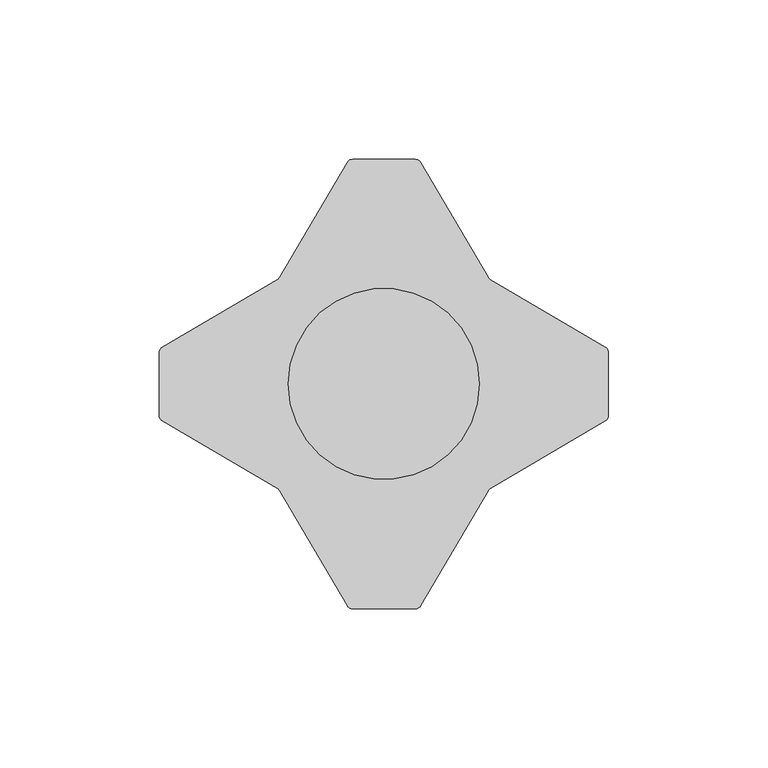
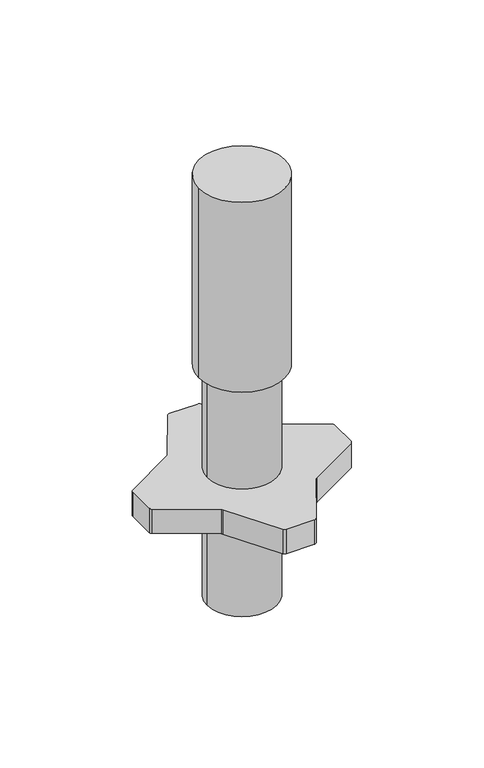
"""IFC4 building model written with IfcOpenShell, lengths in millimetres: proxy geometry, MILLS_ACRAM_EMBASE : Embase."""

import ifcopenshell
import ifcopenshell.guid

model = None  # the IFC model being written
_history = None  # IfcOwnerHistory: only IFC2X3 demands one
_inside = {}  # id of a spatial element -> (the spatial element, [elements in it])
_under = {}  # id of a project, library or spatial element -> (it, [spatial elements below it])
_declared = {}  # id of a project -> (the project, [libraries it declares])
_typed = {}  # id of a type object -> (the type object, [elements of that type])
_made_of = {}  # id of a material, layer set ... -> (it, [elements and type objects made of it])


def new_model(schema):
    """Start an empty IFC model of exactly this schema.

    Asked for "IFC4X3", IfcOpenShell would pick the latest addendum, in which some entities
    have other attributes; the version numbers below select the first issue.
    IFC2X3 requires an IfcOwnerHistory on every rooted entity: one is made here for all.
    """
    global model, _history
    if schema == "IFC4X3":
        model = ifcopenshell.file(schema_version=(4, 3, 0, 0))
    else:
        model = ifcopenshell.file(schema=schema)
    _inside.clear()
    _under.clear()
    _declared.clear()
    _typed.clear()
    _made_of.clear()
    _history = None
    if model.schema == "IFC2X3":
        org = make("IfcOrganization", Name="unknown")
        user = make(
            "IfcPersonAndOrganization",
            ThePerson=make("IfcPerson", FamilyName="unknown"),
            TheOrganization=org,
        )
        app = make(
            "IfcApplication",
            ApplicationDeveloper=org,
            Version="unknown",
            ApplicationFullName="unknown",
            ApplicationIdentifier="unknown",
        )
        _history = make(
            "IfcOwnerHistory",
            OwningUser=user,
            OwningApplication=app,
            ChangeAction="ADDED",
            CreationDate=0,
        )
    return model


def make(cls, **values):
    """One entity of the class cls with the attributes given. An attribute that is None is left unset."""
    return model.create_entity(
        cls, **{name: value for name, value in values.items() if value is not None}
    )


def rooted(cls, **values):
    """An entity with a GlobalId (a new one), such as an element, a storey or a relation."""
    return make(cls, GlobalId=ifcopenshell.guid.new(), OwnerHistory=_history, **values)


def si_unit(unit_type, name, prefix=None):
    """IfcSIUnit, for example si_unit("LENGTHUNIT", "METRE", prefix="MILLI")."""
    return make("IfcSIUnit", UnitType=unit_type, Prefix=prefix, Name=name)


def assignment(units):
    """IfcUnitAssignment: the units of a project."""
    return None if units is None else make("IfcUnitAssignment", Units=units)


def point(xyz):
    """IfcCartesianPoint."""
    return None if xyz is None else make("IfcCartesianPoint", Coordinates=xyz)


def direction(xyz):
    """IfcDirection."""
    return None if xyz is None else make("IfcDirection", DirectionRatios=xyz)


def frame(location, z_axis=None, x_axis=None):
    """IfcAxis2Placement3D, a coordinate frame: its origin and axes. An axis left out is left unset."""
    return make(
        "IfcAxis2Placement3D",
        Location=point(location),
        Axis=direction(z_axis),
        RefDirection=direction(x_axis),
    )


def frame_2d(location, x_axis=None):
    """IfcAxis2Placement2D, a coordinate frame in the plane: its origin and x axis."""
    return make(
        "IfcAxis2Placement2D", Location=point(location), RefDirection=direction(x_axis)
    )


def origin():
    """The frame at (0, 0, 0) with its axes left unset."""
    return frame((0.0, 0.0, 0.0))


def place(relative_to, where):
    """IfcLocalPlacement: puts the frame where relative to a parent placement (None: the world)."""
    return make(
        "IfcLocalPlacement", PlacementRelTo=relative_to, RelativePlacement=where
    )


def context(
    kind, dimensions, precision=None, world=None, true_north=None, identifier=None
):
    """IfcGeometricRepresentationContext, for example the 3D "Model" context."""
    return make(
        "IfcGeometricRepresentationContext",
        ContextIdentifier=identifier,
        ContextType=kind,
        CoordinateSpaceDimension=dimensions,
        Precision=precision,
        WorldCoordinateSystem=world,
        TrueNorth=true_north,
    )


def project(units=None, contexts=None):
    """IfcProject with its units and contexts."""
    return rooted(
        "IfcProject",
        Name="project",
        RepresentationContexts=contexts,
        UnitsInContext=assignment(units),
    )


def spatial(cls, under=None, at=None, **own):
    """A site, building, storey or space (cls), placed at a placement, below another one or the project."""
    s = rooted(cls, ObjectPlacement=at, **own)
    if under is not None:
        _under.setdefault(under.id(), (under, []))[1].append(s)
    return s


def polyline(points):
    """IfcPolyline through the points."""
    return make("IfcPolyline", Points=[point(p) for p in points])


def circle_curve(where, radius):
    """IfcCircle in the frame where."""
    return make("IfcCircle", Position=where, Radius=radius)


def trimmed(basis, trim1, trim2, sense, master):
    """IfcTrimmedCurve: the piece of a basis curve between two trims."""
    return make(
        "IfcTrimmedCurve",
        BasisCurve=basis,
        Trim1=trim1,
        Trim2=trim2,
        SenseAgreement=sense,
        MasterRepresentation=master,
    )


def segment(curve, same_sense, transition):
    """IfcCompositeCurveSegment."""
    return make(
        "IfcCompositeCurveSegment",
        Transition=transition,
        SameSense=same_sense,
        ParentCurve=curve,
    )


def composite_curve(segments, self_intersect=None):
    """IfcCompositeCurve: segments joined end to end."""
    return make("IfcCompositeCurve", Segments=segments, SelfIntersect=self_intersect)


def outline(outer, holes=None, kind="AREA"):
    """IfcArbitraryClosedProfileDef: a profile drawn as a closed curve; with holes, ...WithVoids."""
    if holes is None:
        return make("IfcArbitraryClosedProfileDef", ProfileType=kind, OuterCurve=outer)
    return make(
        "IfcArbitraryProfileDefWithVoids",
        ProfileType=kind,
        OuterCurve=outer,
        InnerCurves=holes,
    )


def extrude(swept, where, along, depth):
    """IfcExtrudedAreaSolid: the profile swept, set in the frame where, extruded along a direction by depth."""
    return make(
        "IfcExtrudedAreaSolid",
        SweptArea=swept,
        Position=where,
        ExtrudedDirection=direction(along),
        Depth=depth,
    )


def shape(context_of_items, identifier, shape_type, items):
    """IfcShapeRepresentation: the items that make up one representation, for example the "Body"."""
    return make(
        "IfcShapeRepresentation",
        ContextOfItems=context_of_items,
        RepresentationIdentifier=identifier,
        RepresentationType=shape_type,
        Items=items,
    )


def source(mapping_origin, context_of_items, identifier, shape_type, items):
    """IfcRepresentationMap: a shape defined once, which mapped items show again and again."""
    return make(
        "IfcRepresentationMap",
        MappingOrigin=mapping_origin,
        MappedRepresentation=shape(context_of_items, identifier, shape_type, items),
    )


def transform(
    local_origin,
    x_axis=None,
    y_axis=None,
    z_axis=None,
    scale=None,
    scale2=None,
    scale3=None,
    uniform=True,
):
    """IfcCartesianTransformationOperator3D, or its non-uniform kind. x_axis, y_axis, z_axis: its Axis1, 2, 3."""
    if uniform:
        return make(
            "IfcCartesianTransformationOperator3D",
            Axis1=direction(x_axis),
            Axis2=direction(y_axis),
            LocalOrigin=point(local_origin),
            Scale=scale,
            Axis3=direction(z_axis),
        )
    return make(
        "IfcCartesianTransformationOperator3DnonUniform",
        Axis1=direction(x_axis),
        Axis2=direction(y_axis),
        LocalOrigin=point(local_origin),
        Scale=scale,
        Axis3=direction(z_axis),
        Scale2=scale2,
        Scale3=scale3,
    )


def mapped(mapping_source, mapping_target):
    """IfcMappedItem: shows the shape of a source again, moved by a transform."""
    return make(
        "IfcMappedItem", MappingSource=mapping_source, MappingTarget=mapping_target
    )


def made_of(thing, what):
    """Note that an element or type object is made of a material, layer set ...; save() writes the relation."""
    if what is not None:
        _made_of.setdefault(what.id(), (what, []))[1].append(thing)
    return thing


def element(
    cls,
    number,
    at=None,
    inside=None,
    cuts=None,
    type_object=None,
    material=None,
    context=None,
    identifier="Body",
    shape_type=None,
    held_by="IfcProductDefinitionShape",
    body=None,
    shapes=None,
    **own,
):
    """One element of the class cls, such as IfcWall. Its Tag is "e" and its number.

    at: its placement. inside: the storey or other place that contains it. cuts: it is an
    opening in that element (IfcRelVoidsElement). A single representation is given by context,
    identifier, shape_type and body (its items); several are given by shapes. held_by: the class
    of the entity that holds the representations. save() writes the other relations.
    """
    e = rooted(cls, Tag="e%d" % number, ObjectPlacement=at, **own)
    if body is not None:
        shapes = [shape(context, identifier, shape_type, body)]
    if shapes is not None:
        e.Representation = make(held_by, Representations=shapes)
    if inside is not None:
        _inside.setdefault(inside.id(), (inside, []))[1].append(e)
    if cuts is not None:
        rooted(
            "IfcRelVoidsElement", RelatingBuildingElement=cuts, RelatedOpeningElement=e
        )
    if type_object is not None:
        _typed.setdefault(type_object.id(), (type_object, []))[1].append(e)
    return made_of(e, material)


def aggregate(whole, parts):
    """IfcRelAggregates: a whole, such as a stair, and the parts it consists of."""
    return rooted("IfcRelAggregates", RelatingObject=whole, RelatedObjects=parts)


def save(model, path):
    """Write the relations noted so far, then the file.

    IfcRelAggregates (storeys below a building ...), IfcRelContainedInSpatialStructure (elements
    in a storey), IfcRelDefinesByType, IfcRelAssociatesMaterial and IfcRelDeclares: one each for
    every whole, place, type object, material and project.
    """
    for whole, parts in _under.values():
        aggregate(whole, parts)
    for where, things in _inside.values():
        rooted(
            "IfcRelContainedInSpatialStructure",
            RelatedElements=things,
            RelatingStructure=where,
        )
    for kind, things in _typed.values():
        rooted("IfcRelDefinesByType", RelatedObjects=things, RelatingType=kind)
    for what, things in _made_of.values():
        rooted("IfcRelAssociatesMaterial", RelatedObjects=things, RelatingMaterial=what)
    for by, libraries in _declared.values():
        rooted("IfcRelDeclares", RelatingContext=by, RelatedDefinitions=libraries)
    model.write(path)


def specialty_equipment_0b5c82ff(model_context):
    return source(origin(), model_context, "Body", "SweptSolid", [
        extrude(outline(composite_curve([segment(trimmed(circle_curve(frame_2d((-79.2784712, 0.0)), 30.0), [point((-109.2784712, 0.0))], [point((-49.2784712, 0.0))], False, "CARTESIAN"), True, "CONTINUOUS"), segment(trimmed(circle_curve(frame_2d((-79.2784712, 0.0)), 30.0), [point((-49.2784712, 0.0))], [point((-109.2784712, 0.0))], False, "CARTESIAN"), True, "CONTINUOUS")], self_intersect=False)), frame((0.0, 0.0, 85.0), z_axis=(0.0, 0.0, 1.0), x_axis=(1.0, 0.0, 0.0)), (0.0, 0.0, 1.0), 140.0),
        extrude(outline(composite_curve([segment(trimmed(circle_curve(frame_2d((-69.4239115, 68.5)), 2.0), [point((-69.4239115, 70.5))], [point((-67.6988617, 69.5120292))], False, "CARTESIAN"), True, "CONTINUOUS"), segment(polyline([(-67.6988617, 69.5120292), (-46.5421091, 33.4493827)]), True, "CONTINUOUS"), segment(trimmed(circle_curve(frame_2d((-44.8170593, 34.4614119)), 2.0), [point((-46.5421091, 33.4493827))], [point((-45.8290885, 32.7363621))], True, "CARTESIAN"), True, "CONTINUOUS"), segment(polyline([(-45.8290885, 32.7363621), (-9.7948682, 11.5962862)]), True, "CONTINUOUS"), segment(trimmed(circle_curve(frame_2d((-10.8068975, 9.8712364)), 2.0), [point((-9.7948682, 11.5962862))], [point((-8.8068975, 9.8712364))], False, "CARTESIAN"), True, "CONTINUOUS"), segment(polyline([(-8.8068975, 9.8712364), (-8.8068975, -9.8545597)]), True, "CONTINUOUS"), segment(trimmed(circle_curve(frame_2d((-10.8068975, -9.8545597)), 2.0), [point((-8.8068975, -9.8545597))], [point((-9.7948682, -11.5796095))], False, "CARTESIAN"), True, "CONTINUOUS"), segment(polyline([(-9.7948682, -11.5796095), (-45.8141703, -32.7109334)]), True, "CONTINUOUS"), segment(trimmed(circle_curve(frame_2d((-44.8021411, -34.4359832)), 2.0), [point((-45.8141703, -32.7109334))], [point((-46.5271909, -33.423954))], True, "CARTESIAN"), True, "CONTINUOUS"), segment(polyline([(-46.5271909, -33.423954), (-67.6988617, -69.5120292)]), True, "CONTINUOUS"), segment(trimmed(circle_curve(frame_2d((-69.4239115, -68.5)), 2.0), [point((-67.6988617, -69.5120292))], [point((-69.4239115, -70.5))], False, "CARTESIAN"), True, "CONTINUOUS"), segment(polyline([(-69.4239115, -70.5), (-89.1330309, -70.5)]), True, "CONTINUOUS"), segment(trimmed(circle_curve(frame_2d((-89.1330309, -68.5)), 2.0), [point((-89.1330309, -70.5))], [point((-90.8580808, -69.5120292))], False, "CARTESIAN"), True, "CONTINUOUS"), segment(polyline([(-90.8580808, -69.5120292), (-112.0148334, -33.4493827)]), True, "CONTINUOUS"), segment(trimmed(circle_curve(frame_2d((-113.7398832, -34.4614119)), 2.0), [point((-112.0148334, -33.4493827))], [point((-112.727854, -32.7363621))], True, "CARTESIAN"), True, "CONTINUOUS"), segment(polyline([(-112.727854, -32.7363621), (-148.7905005, -11.5796095)]), True, "CONTINUOUS"), segment(trimmed(circle_curve(frame_2d((-147.7784712, -9.8545597)), 2.0), [point((-148.7905005, -11.5796095))], [point((-149.7784712, -9.8545597))], False, "CARTESIAN"), True, "CONTINUOUS"), segment(polyline([(-149.7784712, -9.8545597), (-149.7784712, 9.8545597)]), True, "CONTINUOUS"), segment(trimmed(circle_curve(frame_2d((-147.7784712, 9.8545597)), 2.0), [point((-149.7784712, 9.8545597))], [point((-148.7905005, 11.5796095))], False, "CARTESIAN"), True, "CONTINUOUS"), segment(polyline([(-148.7905005, 11.5796095), (-112.727854, 32.7363621)]), True, "CONTINUOUS"), segment(trimmed(circle_curve(frame_2d((-113.7398832, 34.4614119)), 2.0), [point((-112.727854, 32.7363621))], [point((-112.0148334, 33.4493827))], True, "CARTESIAN"), True, "CONTINUOUS"), segment(polyline([(-112.0148334, 33.4493827), (-90.8580808, 69.5120292)]), True, "CONTINUOUS"), segment(trimmed(circle_curve(frame_2d((-89.1330309, 68.5)), 2.0), [point((-90.8580808, 69.5120292))], [point((-89.1330309, 70.5))], False, "CARTESIAN"), True, "CONTINUOUS"), segment(polyline([(-89.1330309, 70.5), (-69.4239115, 70.5)]), True, "CONTINUOUS")], self_intersect=False)), frame((0.0, 0.0, -9.0), z_axis=(0.0, 0.0, 1.0), x_axis=(1.0, 0.0, 0.0)), (0.0, 0.0, 1.0), 18.0),
        extrude(outline(composite_curve([segment(trimmed(circle_curve(frame_2d((-79.2784712, 0.0)), 24.15), [point((-103.4284712, 0.0))], [point((-55.1284712, 0.0))], False, "CARTESIAN"), True, "CONTINUOUS"), segment(trimmed(circle_curve(frame_2d((-79.2784712, 0.0)), 24.15), [point((-55.1284712, 0.0))], [point((-103.4284712, 0.0))], False, "CARTESIAN"), True, "CONTINUOUS")], self_intersect=False)), frame((0.0, 0.0, -85.0), z_axis=(0.0, 0.0, 1.0), x_axis=(1.0, 0.0, 0.0)), (0.0, 0.0, 1.0), 170.0),
    ])


if __name__ == "__main__":
    model = new_model("IFC4")
    model_context = context("Model", 3, world=origin())
    ifc_project = project(units=[si_unit("LENGTHUNIT", "METRE", prefix="MILLI")], contexts=[model_context])
    site = spatial("IfcSite", under=ifc_project)
    building = spatial("IfcBuilding", under=site)
    placement = place(None, origin())
    specialty_equipment_shape = specialty_equipment_0b5c82ff(model_context)
    element("IfcBuildingElementProxy", 1, Name="MILLS_ACRAM_EMBASE : Embase", ObjectType="MILLS_ACRAM_EMBASE : Embase", at=placement, inside=building, context=model_context, shape_type="MappedRepresentation", body=[
        mapped(specialty_equipment_shape, transform((0.0, 0.0, 0.0), x_axis=(1.0, 0.0, 0.0), y_axis=(0.0, 1.0, 0.0), z_axis=(0.0, 0.0, 1.0))),
    ])
    save(model, "model.ifc")
